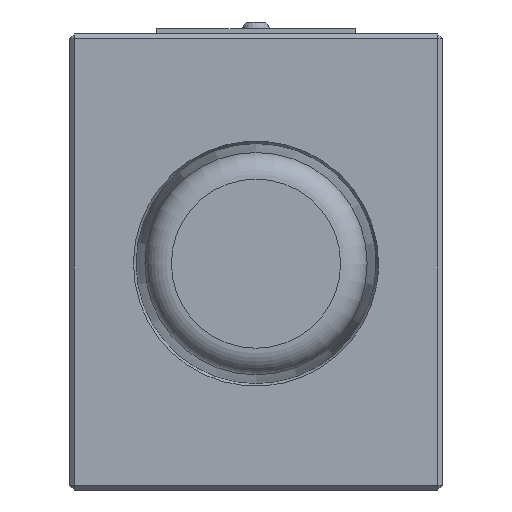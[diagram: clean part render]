
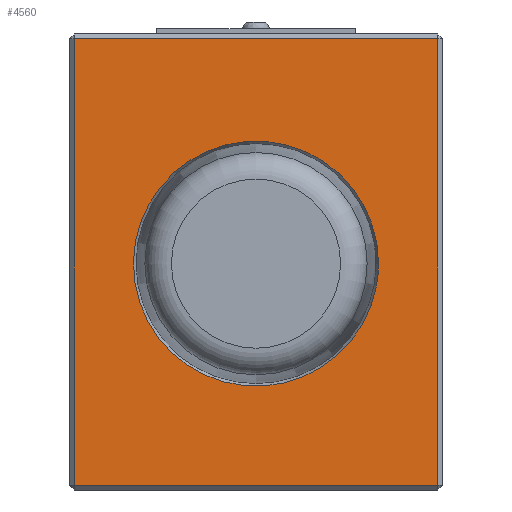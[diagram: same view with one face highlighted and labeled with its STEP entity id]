
A CAD part, left-side view. The second image highlights one B-rep face of the part: STEP entity #4560.
In plain terms, the highlighted planar face has unit normal (-1, 0, 0).
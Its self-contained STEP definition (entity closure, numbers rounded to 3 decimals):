
#97=ELLIPSE('',#5697,18.405,18.405);
#120=PLANE('',#5698);
#285=LINE('',#10241,#537);
#286=LINE('',#10244,#538);
#287=LINE('',#10246,#539);
#288=LINE('',#10248,#540);
#537=VECTOR('',#6358,1.);
#538=VECTOR('',#6359,1.);
#539=VECTOR('',#6360,1.);
#540=VECTOR('',#6361,1.);
#1230=EDGE_LOOP('',(#2016,#2017,#2018,#2019));
#1231=EDGE_LOOP('',(#2020));
#2016=ORIENTED_EDGE('',*,*,#3369,.T.);
#2017=ORIENTED_EDGE('',*,*,#3370,.T.);
#2018=ORIENTED_EDGE('',*,*,#3371,.T.);
#2019=ORIENTED_EDGE('',*,*,#3372,.T.);
#2020=ORIENTED_EDGE('',*,*,#3373,.F.);
#3369=EDGE_CURVE('',#5230,#5231,#285,.T.);
#3370=EDGE_CURVE('',#5231,#5232,#286,.T.);
#3371=EDGE_CURVE('',#5232,#5233,#287,.T.);
#3372=EDGE_CURVE('',#5233,#5230,#288,.T.);
#3373=EDGE_CURVE('',#5234,#5234,#97,.T.);
#4560=ADVANCED_FACE('',(#4950,#4951),#120,.T.);
#4950=FACE_BOUND('',#1230,.T.);
#4951=FACE_BOUND('',#1231,.T.);
#5230=VERTEX_POINT('',#10242);
#5231=VERTEX_POINT('',#10243);
#5232=VERTEX_POINT('',#10245);
#5233=VERTEX_POINT('',#10247);
#5234=VERTEX_POINT('',#10250);
#5697=AXIS2_PLACEMENT_3D('',#10249,#6362,#6363);
#5698=AXIS2_PLACEMENT_3D('',#10251,#6364,#6365);
#6358=DIRECTION('',(0.,0.,-1.));
#6359=DIRECTION('',(0.,-1.,0.));
#6360=DIRECTION('',(0.,0.,1.));
#6361=DIRECTION('',(0.,1.,0.));
#6362=DIRECTION('',(-1.,0.,0.));
#6363=DIRECTION('',(0.,0.,-1.));
#6364=DIRECTION('',(-1.,0.,0.));
#6365=DIRECTION('',(0.,0.,-1.));
#10241=CARTESIAN_POINT('',(251.91,293.86,3.437));
#10242=CARTESIAN_POINT('',(251.91,293.86,2.908));
#10243=CARTESIAN_POINT('',(251.91,293.86,-64.192));
#10244=CARTESIAN_POINT('',(251.91,318.56,-64.192));
#10245=CARTESIAN_POINT('',(251.91,239.26,-64.192));
#10246=CARTESIAN_POINT('',(251.91,239.26,3.608));
#10247=CARTESIAN_POINT('',(251.91,239.26,2.908));
#10248=CARTESIAN_POINT('',(251.91,318.56,2.908));
#10249=CARTESIAN_POINT('',(251.91,266.56,-30.892));
#10250=CARTESIAN_POINT('',(251.91,248.155,-30.892));
#10251=CARTESIAN_POINT('',(251.91,318.56,3.437));
